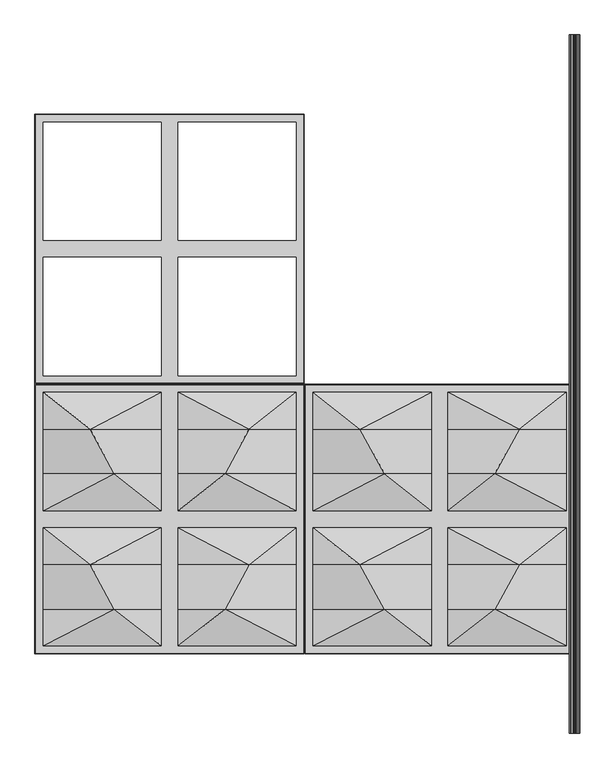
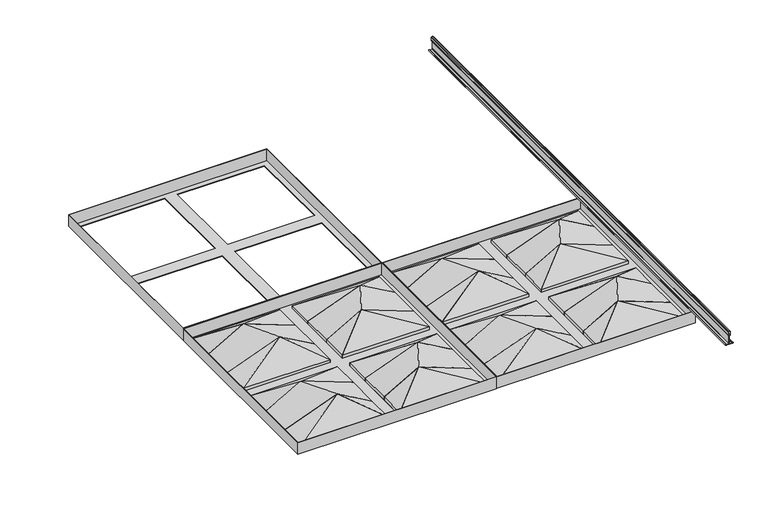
"""IFC4 building model written with IfcOpenShell, lengths in millimetres: proxy geometry, Maxxit_Highland-Ceiling_rev-01 : Maxxit_Highland-Ceiling_Quad."""

from ifc_helpers import new_model, si_unit, point, frame, frame_2d, origin, place, context, project, spatial, polyline, circle_curve, trimmed, segment, composite_curve, outline, extrude, faceted_brep, source, transform, mapped, element, save
from ifc_brep_helpers import plane_surface, spline_surface, advanced_brep


def generic_models_b0d74349(model_context):
    return source(origin(), model_context, "Body", "SolidModel", [
        faceted_brep([(165.89375, 787.4, 25.4), (773.90625, 787.4, 25.4), (773.90625, 1395.4125, 25.4), (165.89375, 1395.4125, 25.4), (772.31875, 788.9875, 25.4), (167.48125, 788.9875, 25.4), (167.48125, 1393.825, 25.4), (772.31875, 1393.825, 25.4), (165.89375, 787.4, -12.7), (165.89375, 1395.4125, -12.7), (773.90625, 1395.4125, -12.7), (773.90625, 787.4, -12.7), (755.6000122, 805.4, -12.7), (755.6000122, 1072.1000122, -12.7), (488.9, 1072.1000122, -12.7), (488.9, 805.4, -12.7), (184.1999878, 805.4, -12.7), (450.9, 805.4, -12.7), (450.9, 1072.1000122, -12.7), (184.1999878, 1072.1000122, -12.7), (755.6000122, 1377.4125, -12.7), (488.9, 1377.4125, -12.7), (488.9, 1110.7124878, -12.7), (755.6000122, 1110.7124878, -12.7), (184.1999878, 1377.4125, -12.7), (184.1999878, 1110.7124878, -12.7), (450.9, 1110.7124878, -12.7), (450.9, 1377.4125, -12.7), (167.48125, 788.9875, -11.1125), (772.31875, 788.9875, -11.1125), (772.31875, 1393.825, -11.1125), (167.48125, 1393.825, -11.1125), (755.6000122, 805.4, -11.1125), (488.9, 805.4, -11.1125), (488.9, 1072.1000122, -11.1125), (755.6000122, 1072.1000122, -11.1125), (184.1999878, 805.4, -11.1125), (184.1999878, 1072.1000122, -11.1125), (450.9, 1072.1000122, -11.1125), (450.9, 805.4, -11.1125), (755.6000122, 1377.4125, -11.1125), (755.6000122, 1110.7124878, -11.1125), (488.9, 1110.7124878, -11.1125), (488.9, 1377.4125, -11.1125), (184.1999878, 1377.4125, -11.1125), (450.9, 1377.4125, -11.1125), (450.9, 1110.7124878, -11.1125), (184.1999878, 1110.7124878, -11.1125)], [[[0, 1, 2, 3], [4, 5, 6, 7]], [[8, 9, 10, 11], [12, 13, 14, 15], [16, 17, 18, 19], [20, 21, 22, 23], [24, 25, 26, 27]], [[1, 0, 8, 11]], [[2, 1, 11, 10]], [[3, 2, 10, 9]], [[0, 3, 9, 8]], [[28, 29, 30, 31], [32, 33, 34, 35], [36, 37, 38, 39], [40, 41, 42, 43], [44, 45, 46, 47]], [[29, 28, 5, 4]], [[30, 29, 4, 7]], [[31, 30, 7, 6]], [[28, 31, 6, 5]], [[12, 15, 33, 32]], [[15, 14, 34, 33]], [[14, 13, 35, 34]], [[13, 12, 32, 35]], [[16, 19, 37, 36]], [[19, 18, 38, 37]], [[18, 17, 39, 38]], [[17, 16, 36, 39]], [[20, 23, 41, 40]], [[23, 22, 42, 41]], [[22, 21, 43, 42]], [[21, 20, 40, 43]], [[24, 27, 45, 44]], [[27, 26, 46, 45]], [[26, 25, 47, 46]], [[25, 24, 44, 47]]]),
        faceted_brep([(1365.2000122, 684.5417938, -1.5875), (1259.1483765, 684.5417938, 58.8875), (1098.5, 684.5417938, -1.5875), (1098.5, 684.5417938, -11.1125), (1259.1483765, 684.5417938, 49.3625), (1365.2000122, 684.5417938, -11.1125), (1365.2000122, 767.8125, -11.1125), (1365.2000122, 767.8125, -1.5875), (1098.5, 767.8125, -11.1125), (1098.5, 767.8125, -1.5875)], [[[0, 1, 2, 3, 4, 5]], [[0, 5, 6, 7]], [[5, 4, 6]], [[4, 3, 8]], [[3, 2, 9, 8]], [[2, 1, 9]], [[1, 0, 7]], [[1, 4, 8, 9]], [[4, 1, 7, 6]]]),
        faceted_brep([(954.4483643, 584.3832092, 58.8875), (1060.5, 584.3832092, -1.5875), (1060.5, 584.3832092, -11.1125), (954.4483643, 584.3832092, 49.3625), (793.7999878, 584.3832092, -11.1125), (793.7999878, 584.3832092, -1.5875), (793.7999878, 501.1124878, -1.5875), (793.7999878, 501.1124878, -11.1125), (1060.5, 501.1124878, -11.1125), (1060.5, 501.1124878, -1.5875)], [[[0, 1, 2, 3, 4, 5]], [[0, 5, 6]], [[5, 4, 7, 6]], [[4, 3, 7]], [[3, 2, 8]], [[2, 1, 9, 8]], [[1, 0, 9]], [[3, 0, 6, 7]], [[0, 3, 8, 9]]]),
        faceted_brep([(1060.5, 767.8125, -1.5875), (793.7999878, 767.8125, -1.5875), (899.8691208, 684.5280552, 58.8790431), (1060.5, 767.8125, -11.1125), (793.7999878, 767.8125, -11.1125), (899.8609554, 684.5212455, 49.3774232)], [[[0, 1, 2]], [[1, 0, 3, 4]], [[4, 3, 5]], [[2, 5, 3, 0]], [[5, 2, 1, 4]]]),
        faceted_brep([(1060.5, 501.0919547, -11.1125), (793.7999878, 501.0919547, -11.1125), (954.3993714, 584.3832092, 49.3774232), (1060.5261505, 501.0919547, -1.5875), (793.7999878, 501.0919547, -1.5875), (954.4231298, 584.4030231, 58.8983724)], [[[0, 1, 2]], [[1, 0, 3, 4]], [[4, 3, 5]], [[5, 2, 1, 4]], [[2, 5, 3, 0]]]),
        faceted_brep([(793.7999878, 684.5417938, -1.5875), (793.7999878, 684.5417938, -11.1125), (899.8516235, 684.5417938, 49.3625), (1060.5, 684.5417938, -11.1125), (1060.5, 684.5417938, -1.5875), (899.8516235, 684.5417938, 58.8875), (793.7999878, 767.8125, -1.5875), (793.7999878, 767.8125, -11.1125), (1060.5, 767.8125, -11.1125), (1060.5, 767.8125, -1.5875)], [[[0, 1, 2, 3, 4, 5]], [[1, 0, 6, 7]], [[2, 1, 7]], [[3, 2, 8]], [[4, 3, 8, 9]], [[5, 4, 9]], [[0, 5, 6]], [[2, 5, 9, 8]], [[5, 2, 7, 6]]]),
        faceted_brep([(1365.2000122, 767.8125, -1.5875), (1098.5, 767.8125, -1.5875), (1259.1390446, 684.5212455, 58.8839871), (1365.2000122, 767.8125, -11.1125), (1098.5, 767.8125, -11.1125), (1259.1308783, 684.5280545, 49.3724781)], [[[0, 1, 2]], [[1, 0, 3, 4]], [[4, 3, 5]], [[5, 2, 1, 4]], [[2, 5, 3, 0]]]),
        faceted_brep([(1365.2000122, 501.0919547, -11.1125), (1098.5, 501.0919547, -11.1125), (1204.5768677, 584.4030211, 49.3918114), (1365.2396132, 501.0919547, -1.5875), (1098.5, 501.0919547, -1.5875), (1204.6006286, 584.3832092, 58.8839871)], [[[0, 1, 2]], [[1, 0, 3, 4]], [[4, 3, 5]], [[2, 5, 3, 0]], [[5, 2, 1, 4]]]),
        faceted_brep([(1204.5516357, 584.3832092, 58.8875), (1365.2000122, 584.3832092, -1.5875), (1365.2000122, 584.3832092, -11.1125), (1204.5516357, 584.3832092, 49.3625), (1098.5, 584.3832092, -11.1125), (1098.5, 584.3832092, -1.5875), (1365.2000122, 501.1124878, -1.5875), (1365.2000122, 501.1124878, -11.1125), (1098.5, 501.1124878, -11.1125), (1098.5, 501.1124878, -1.5875)], [[[0, 1, 2, 3, 4, 5]], [[1, 0, 6]], [[2, 1, 6, 7]], [[3, 2, 7]], [[4, 3, 8]], [[5, 4, 8, 9]], [[0, 5, 9]], [[0, 3, 7, 6]], [[3, 0, 9, 8]]]),
        advanced_brep(
        [(793.7999878, 279.0707214, -1.5875), (793.7999878, 279.0707214, -11.1125), (954.4483643, 279.0707214, 49.3625), (1060.5, 279.0707214, -11.1125), (1060.5, 279.0707214, -1.5875), (954.4483643, 279.0707214, 58.8875), (793.7999878, 379.229306, -1.5875), (899.8516235, 379.229306, 58.8875), (1060.5, 379.229306, -1.5875), (1060.5, 379.229306, -11.1125), (899.8516235, 379.229306, 49.3625), (793.7999878, 379.229306, -11.1125)],
        [
            (0, 1),
            (1, 2),
            (2, 3),
            (3, 4),
            (4, 5),
            (5, 0),
            (6, 7),
            (7, 8),
            (8, 9),
            (9, 10),
            (10, 11),
            (11, 6),
            (11, 1),
            (0, 6),
            (10, 2),
            (9, 3),
            (8, 4),
            (7, 5),
        ],
        [
            plane_surface(frame((936.2494507, 279.0707214, 13.8083333), z_axis=(0.0, -1.0, 0.0), x_axis=(0.9358843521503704, 0.0, 0.35230736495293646))),
            plane_surface(frame((918.0505371, 379.229306, 13.8083333), z_axis=(0.0, 1.0, 0.0), x_axis=(0.9358843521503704, 0.0, 0.35230736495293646))),
            plane_surface(frame((793.7999878, 379.229306, -6.35), z_axis=(-1.0, 0.0, 0.0), x_axis=(0.0, 0.0, -1.0))),
            spline_surface(1, 1, [[(793.7999878, 379.229306, -11.1125), (793.7999878, 279.0707214, -11.1125)], [(899.8516235, 379.229306, 49.3625), (954.4483643, 279.0707214, 49.3625)]], [2, 2], [2, 2], [0.0, 1.0], [0.0, 1.0]),
            spline_surface(1, 1, [[(899.8516235, 379.229306, 49.3625), (954.4483643, 279.0707214, 49.3625)], [(1060.5, 379.229306, -11.1125), (1060.5, 279.0707214, -11.1125)]], [2, 2], [2, 2], [0.0, 1.0], [0.0, 1.0]),
            plane_surface(frame((1060.5, 379.229306, -6.35), z_axis=(1.0, 0.0, 0.0), x_axis=(0.0, 0.0, 1.0))),
            spline_surface(1, 1, [[(1060.5, 379.229306, -1.5875), (1060.5, 279.0707214, -1.5875)], [(899.8516235, 379.229306, 58.8875), (954.4483643, 279.0707214, 58.8875)]], [2, 2], [2, 2], [0.0, 1.0], [0.0, 1.0]),
            spline_surface(1, 1, [[(899.8516235, 379.229306, 58.8875), (954.4483643, 279.0707214, 58.8875)], [(793.7999878, 379.229306, -1.5875), (793.7999878, 279.0707214, -1.5875)]], [2, 2], [2, 2], [0.0, 1.0], [0.0, 1.0]),
        ],
        [
            (0, [[1, 2, 3, 4, 5, 6]]),
            (1, [[7, 8, 9, 10, 11, 12]]),
            (2, [[-12, 13, -1, 14]]),
            (3, [[-11, 15, -2, -13]]),
            (4, [[-10, 16, -3, -15]]),
            (5, [[-9, 17, -4, -16]]),
            (6, [[-8, 18, -5, -17]]),
            (7, [[-7, -14, -6, -18]]),
        ],
    ),
        advanced_brep(
        [(793.7999878, 584.3832092, -1.5875), (793.7999878, 584.3832092, -11.1125), (954.4483643, 584.3832092, 49.3625), (1060.5, 584.3832092, -11.1125), (1060.5, 584.3832092, -1.5875), (954.4483643, 584.3832092, 58.8875), (793.7999878, 684.5417938, -1.5875), (899.8516235, 684.5417938, 58.8875), (1060.5, 684.5417938, -1.5875), (1060.5, 684.5417938, -11.1125), (899.8516235, 684.5417938, 49.3625), (793.7999878, 684.5417938, -11.1125)],
        [
            (0, 1),
            (1, 2),
            (2, 3),
            (3, 4),
            (4, 5),
            (5, 0),
            (6, 7),
            (7, 8),
            (8, 9),
            (9, 10),
            (10, 11),
            (11, 6),
            (11, 1),
            (0, 6),
            (10, 2),
            (9, 3),
            (8, 4),
            (7, 5),
        ],
        [
            plane_surface(frame((936.2494507, 584.3832092, 13.8083333), z_axis=(0.0, -1.0, 0.0), x_axis=(0.9358843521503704, 0.0, 0.35230736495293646))),
            plane_surface(frame((918.0505371, 684.5417938, 13.8083333), z_axis=(0.0, 1.0, 0.0), x_axis=(0.9358843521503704, 0.0, 0.35230736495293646))),
            plane_surface(frame((793.7999878, 684.5417938, -6.35), z_axis=(-1.0, 0.0, 0.0), x_axis=(0.0, 0.0, -1.0))),
            spline_surface(1, 1, [[(793.7999878, 684.5417938, -11.1125), (793.7999878, 584.3832092, -11.1125)], [(899.8516235, 684.5417938, 49.3625), (954.4483643, 584.3832092, 49.3625)]], [2, 2], [2, 2], [0.0, 1.0], [0.0, 1.0]),
            spline_surface(1, 1, [[(899.8516235, 684.5417938, 49.3625), (954.4483643, 584.3832092, 49.3625)], [(1060.5, 684.5417938, -11.1125), (1060.5, 584.3832092, -11.1125)]], [2, 2], [2, 2], [0.0, 1.0], [0.0, 1.0]),
            plane_surface(frame((1060.5, 684.5417938, -6.35), z_axis=(1.0, 0.0, 0.0), x_axis=(0.0, 0.0, 1.0))),
            spline_surface(1, 1, [[(1060.5, 684.5417938, -1.5875), (1060.5, 584.3832092, -1.5875)], [(899.8516235, 684.5417938, 58.8875), (954.4483643, 584.3832092, 58.8875)]], [2, 2], [2, 2], [0.0, 1.0], [0.0, 1.0]),
            spline_surface(1, 1, [[(899.8516235, 684.5417938, 58.8875), (954.4483643, 584.3832092, 58.8875)], [(793.7999878, 684.5417938, -1.5875), (793.7999878, 584.3832092, -1.5875)]], [2, 2], [2, 2], [0.0, 1.0], [0.0, 1.0]),
        ],
        [
            (0, [[1, 2, 3, 4, 5, 6]]),
            (1, [[7, 8, 9, 10, 11, 12]]),
            (2, [[-12, 13, -1, 14]]),
            (3, [[-11, 15, -2, -13]]),
            (4, [[-10, 16, -3, -15]]),
            (5, [[-9, 17, -4, -16]]),
            (6, [[-8, 18, -5, -17]]),
            (7, [[-7, -14, -6, -18]]),
        ],
    ),
        advanced_brep(
        [(1365.2000122, 584.3832092, -1.5875), (1204.5516357, 584.3832092, 58.8875), (1098.5, 584.3832092, -1.5875), (1098.5, 584.3832092, -11.1125), (1204.5516357, 584.3832092, 49.3625), (1365.2000122, 584.3832092, -11.1125), (1365.2000122, 684.5417938, -1.5875), (1365.2000122, 684.5417938, -11.1125), (1259.1483765, 684.5417938, 49.3625), (1098.5, 684.5417938, -11.1125), (1098.5, 684.5417938, -1.5875), (1259.1483765, 684.5417938, 58.8875)],
        [
            (0, 1),
            (1, 2),
            (2, 3),
            (3, 4),
            (4, 5),
            (5, 0),
            (6, 7),
            (7, 8),
            (8, 9),
            (9, 10),
            (10, 11),
            (11, 6),
            (6, 0),
            (5, 7),
            (4, 8),
            (3, 9),
            (2, 10),
            (1, 11),
        ],
        [
            plane_surface(frame((1222.7505493, 584.3832092, 13.8083333), z_axis=(0.0, -1.0, 0.0), x_axis=(0.0, 0.0, -1.0))),
            plane_surface(frame((1240.9494629, 684.5417938, 13.8083333), z_axis=(0.0, 1.0, 0.0), x_axis=(0.0, 0.0, -1.0))),
            plane_surface(frame((1365.2000122, 684.5417938, -6.35), z_axis=(1.0, 0.0, 0.0), x_axis=(0.0, 0.0, 1.0))),
            spline_surface(1, 1, [[(1259.1483765, 684.5417938, 49.3625), (1204.5516357, 584.3832092, 49.3625)], [(1365.2000122, 684.5417938, -11.1125), (1365.2000122, 584.3832092, -11.1125)]], [2, 2], [2, 2], [0.0, 1.0], [0.0, 1.0]),
            spline_surface(1, 1, [[(1098.5, 684.5417938, -11.1125), (1098.5, 584.3832092, -11.1125)], [(1259.1483765, 684.5417938, 49.3625), (1204.5516357, 584.3832092, 49.3625)]], [2, 2], [2, 2], [0.0, 1.0], [0.0, 1.0]),
            plane_surface(frame((1098.5, 684.5417938, -6.35), z_axis=(-1.0, 0.0, 0.0), x_axis=(0.0, 0.0, -1.0))),
            spline_surface(1, 1, [[(1259.1483765, 684.5417938, 58.8875), (1204.5516357, 584.3832092, 58.8875)], [(1098.5, 684.5417938, -1.5875), (1098.5, 584.3832092, -1.5875)]], [2, 2], [2, 2], [0.0, 1.0], [0.0, 1.0]),
            spline_surface(1, 1, [[(1365.2000122, 684.5417938, -1.5875), (1365.2000122, 584.3832092, -1.5875)], [(1259.1483765, 684.5417938, 58.8875), (1204.5516357, 584.3832092, 58.8875)]], [2, 2], [2, 2], [0.0, 1.0], [0.0, 1.0]),
        ],
        [
            (0, [[1, 2, 3, 4, 5, 6]]),
            (1, [[7, 8, 9, 10, 11, 12]]),
            (2, [[-7, 13, -6, 14]]),
            (3, [[-8, -14, -5, 15]]),
            (4, [[-9, -15, -4, 16]]),
            (5, [[-10, -16, -3, 17]]),
            (6, [[-11, -17, -2, 18]]),
            (7, [[-12, -18, -1, -13]]),
        ],
    ),
        faceted_brep([(954.4483643, 279.0707214, 58.8875), (1060.5, 279.0707214, -1.5875), (1060.5, 279.0707214, -11.1125), (954.4483643, 279.0707214, 49.3625), (793.7999878, 279.0707214, -11.1125), (793.7999878, 279.0707214, -1.5875), (793.7999878, 195.8, -1.5875), (793.7999878, 195.8, -11.1125), (1060.5, 195.8, -11.1125), (1060.5, 195.8, -1.5875)], [[[0, 1, 2, 3, 4, 5]], [[0, 5, 6]], [[5, 4, 7, 6]], [[4, 3, 7]], [[3, 2, 8]], [[2, 1, 9, 8]], [[1, 0, 9]], [[3, 0, 6, 7]], [[0, 3, 8, 9]]]),
        faceted_brep([(793.7999878, 379.229306, -1.5875), (793.7999878, 379.229306, -11.1125), (899.8516235, 379.229306, 49.3625), (1060.5, 379.229306, -11.1125), (1060.5, 379.229306, -1.5875), (899.8516235, 379.229306, 58.8875), (793.7999878, 462.5000122, -1.5875), (793.7999878, 462.5000122, -11.1125), (1060.5, 462.5000122, -11.1125), (1060.5, 462.5000122, -1.5875)], [[[0, 1, 2, 3, 4, 5]], [[1, 0, 6, 7]], [[2, 1, 7]], [[3, 2, 8]], [[4, 3, 8, 9]], [[5, 4, 9]], [[0, 5, 6]], [[2, 5, 9, 8]], [[5, 2, 7, 6]]]),
        faceted_brep([(1060.5, 462.5000122, -1.5875), (793.7999878, 462.5000122, -1.5875), (899.8691208, 379.2155674, 58.8790431), (1060.5, 462.5000122, -11.1125), (793.7999878, 462.5000122, -11.1125), (899.8609554, 379.2087577, 49.3774232)], [[[0, 1, 2]], [[1, 0, 3, 4]], [[4, 3, 5]], [[2, 5, 3, 0]], [[5, 2, 1, 4]]]),
        faceted_brep([(1060.5, 195.7794669, -11.1125), (793.7999878, 195.7794669, -11.1125), (954.3993714, 279.0707214, 49.3774232), (1060.5261505, 195.7794669, -1.5875), (793.7999878, 195.7794669, -1.5875), (954.4231298, 279.0905353, 58.8983724)], [[[0, 1, 2]], [[1, 0, 3, 4]], [[4, 3, 5]], [[5, 2, 1, 4]], [[2, 5, 3, 0]]]),
        advanced_brep(
        [(1365.2000122, 279.0707214, -1.5875), (1204.5516357, 279.0707214, 58.8875), (1098.5, 279.0707214, -1.5875), (1098.5, 279.0707214, -11.1125), (1204.5516357, 279.0707214, 49.3625), (1365.2000122, 279.0707214, -11.1125), (1365.2000122, 379.229306, -1.5875), (1365.2000122, 379.229306, -11.1125), (1259.1483765, 379.229306, 49.3625), (1098.5, 379.229306, -11.1125), (1098.5, 379.229306, -1.5875), (1259.1483765, 379.229306, 58.8875)],
        [
            (0, 1),
            (1, 2),
            (2, 3),
            (3, 4),
            (4, 5),
            (5, 0),
            (6, 7),
            (7, 8),
            (8, 9),
            (9, 10),
            (10, 11),
            (11, 6),
            (6, 0),
            (5, 7),
            (4, 8),
            (3, 9),
            (2, 10),
            (1, 11),
        ],
        [
            plane_surface(frame((1222.7505493, 279.0707214, 13.8083333), z_axis=(0.0, -1.0, 0.0), x_axis=(0.0, 0.0, -1.0))),
            plane_surface(frame((1240.9494629, 379.229306, 13.8083333), z_axis=(0.0, 1.0, 0.0), x_axis=(0.0, 0.0, -1.0))),
            plane_surface(frame((1365.2000122, 379.229306, -6.35), z_axis=(1.0, 0.0, 0.0), x_axis=(0.0, 0.0, 1.0))),
            spline_surface(1, 1, [[(1259.1483765, 379.229306, 49.3625), (1204.5516357, 279.0707214, 49.3625)], [(1365.2000122, 379.229306, -11.1125), (1365.2000122, 279.0707214, -11.1125)]], [2, 2], [2, 2], [0.0, 1.0], [0.0, 1.0]),
            spline_surface(1, 1, [[(1098.5, 379.229306, -11.1125), (1098.5, 279.0707214, -11.1125)], [(1259.1483765, 379.229306, 49.3625), (1204.5516357, 279.0707214, 49.3625)]], [2, 2], [2, 2], [0.0, 1.0], [0.0, 1.0]),
            plane_surface(frame((1098.5, 379.229306, -6.35), z_axis=(-1.0, 0.0, 0.0), x_axis=(0.0, 0.0, -1.0))),
            spline_surface(1, 1, [[(1259.1483765, 379.229306, 58.8875), (1204.5516357, 279.0707214, 58.8875)], [(1098.5, 379.229306, -1.5875), (1098.5, 279.0707214, -1.5875)]], [2, 2], [2, 2], [0.0, 1.0], [0.0, 1.0]),
            spline_surface(1, 1, [[(1365.2000122, 379.229306, -1.5875), (1365.2000122, 279.0707214, -1.5875)], [(1259.1483765, 379.229306, 58.8875), (1204.5516357, 279.0707214, 58.8875)]], [2, 2], [2, 2], [0.0, 1.0], [0.0, 1.0]),
        ],
        [
            (0, [[1, 2, 3, 4, 5, 6]]),
            (1, [[7, 8, 9, 10, 11, 12]]),
            (2, [[-7, 13, -6, 14]]),
            (3, [[-8, -14, -5, 15]]),
            (4, [[-9, -15, -4, 16]]),
            (5, [[-10, -16, -3, 17]]),
            (6, [[-11, -17, -2, 18]]),
            (7, [[-12, -18, -1, -13]]),
        ],
    ),
        faceted_brep([(1365.2000122, 462.5000122, -1.5875), (1098.5, 462.5000122, -1.5875), (1259.1390446, 379.2087577, 58.8839871), (1365.2000122, 462.5000122, -11.1125), (1098.5, 462.5000122, -11.1125), (1259.1308783, 379.2155667, 49.3724781)], [[[0, 1, 2]], [[1, 0, 3, 4]], [[4, 3, 5]], [[5, 2, 1, 4]], [[2, 5, 3, 0]]]),
        faceted_brep([(1365.2000122, 195.7794669, -11.1125), (1098.5, 195.7794669, -11.1125), (1204.5768677, 279.0905333, 49.3918114), (1365.2396132, 195.7794669, -1.5875), (1098.5, 195.7794669, -1.5875), (1204.6006286, 279.0707214, 58.8839871)], [[[0, 1, 2]], [[1, 0, 3, 4]], [[4, 3, 5]], [[2, 5, 3, 0]], [[5, 2, 1, 4]]]),
        faceted_brep([(1204.5516357, 279.0707214, 58.8875), (1365.2000122, 279.0707214, -1.5875), (1365.2000122, 279.0707214, -11.1125), (1204.5516357, 279.0707214, 49.3625), (1098.5, 279.0707214, -11.1125), (1098.5, 279.0707214, -1.5875), (1365.2000122, 195.8, -1.5875), (1365.2000122, 195.8, -11.1125), (1098.5, 195.8, -11.1125), (1098.5, 195.8, -1.5875)], [[[0, 1, 2, 3, 4, 5]], [[1, 0, 6]], [[2, 1, 6, 7]], [[3, 2, 7]], [[4, 3, 8]], [[5, 4, 8, 9]], [[0, 5, 9]], [[0, 3, 7, 6]], [[3, 0, 9, 8]]]),
        faceted_brep([(1365.2000122, 379.229306, -1.5875), (1259.1483765, 379.229306, 58.8875), (1098.5, 379.229306, -1.5875), (1098.5, 379.229306, -11.1125), (1259.1483765, 379.229306, 49.3625), (1365.2000122, 379.229306, -11.1125), (1365.2000122, 462.5000122, -11.1125), (1365.2000122, 462.5000122, -1.5875), (1098.5, 462.5000122, -11.1125), (1098.5, 462.5000122, -1.5875)], [[[0, 1, 2, 3, 4, 5]], [[0, 5, 6, 7]], [[5, 4, 6]], [[4, 3, 8]], [[3, 2, 9, 8]], [[2, 1, 9]], [[1, 0, 7]], [[1, 4, 8, 9]], [[4, 1, 7, 6]]]),
        faceted_brep([(775.49375, 177.8, 25.4), (1383.50625, 177.8, 25.4), (1383.50625, 785.8125, 25.4), (775.49375, 785.8125, 25.4), (1381.91875, 179.3875, 25.4), (777.08125, 179.3875, 25.4), (777.08125, 784.225, 25.4), (1381.91875, 784.225, 25.4), (775.49375, 177.8, -12.7), (775.49375, 785.8125, -12.7), (1383.50625, 785.8125, -12.7), (1383.50625, 177.8, -12.7), (1365.2000122, 195.8, -12.7), (1365.2000122, 462.5000122, -12.7), (1098.5, 462.5000122, -12.7), (1098.5, 195.8, -12.7), (793.7999878, 195.8, -12.7), (1060.5, 195.8, -12.7), (1060.5, 462.5000122, -12.7), (793.7999878, 462.5000122, -12.7), (1365.2000122, 767.8125, -12.7), (1098.5, 767.8125, -12.7), (1098.5, 501.1124878, -12.7), (1365.2000122, 501.1124878, -12.7), (793.7999878, 767.8125, -12.7), (793.7999878, 501.1124878, -12.7), (1060.5, 501.1124878, -12.7), (1060.5, 767.8125, -12.7), (777.08125, 179.3875, -11.1125), (1381.91875, 179.3875, -11.1125), (1381.91875, 784.225, -11.1125), (777.08125, 784.225, -11.1125), (1365.2000122, 195.8, -11.1125), (1098.5, 195.8, -11.1125), (1098.5, 462.5000122, -11.1125), (1365.2000122, 462.5000122, -11.1125), (793.7999878, 195.8, -11.1125), (793.7999878, 462.5000122, -11.1125), (1060.5, 462.5000122, -11.1125), (1060.5, 195.8, -11.1125), (1365.2000122, 767.8125, -11.1125), (1365.2000122, 501.1124878, -11.1125), (1098.5, 501.1124878, -11.1125), (1098.5, 767.8125, -11.1125), (793.7999878, 767.8125, -11.1125), (1060.5, 767.8125, -11.1125), (1060.5, 501.1124878, -11.1125), (793.7999878, 501.1124878, -11.1125)], [[[0, 1, 2, 3], [4, 5, 6, 7]], [[8, 9, 10, 11], [12, 13, 14, 15], [16, 17, 18, 19], [20, 21, 22, 23], [24, 25, 26, 27]], [[1, 0, 8, 11]], [[2, 1, 11, 10]], [[3, 2, 10, 9]], [[0, 3, 9, 8]], [[28, 29, 30, 31], [32, 33, 34, 35], [36, 37, 38, 39], [40, 41, 42, 43], [44, 45, 46, 47]], [[29, 28, 5, 4]], [[30, 29, 4, 7]], [[31, 30, 7, 6]], [[28, 31, 6, 5]], [[12, 15, 33, 32]], [[15, 14, 34, 33]], [[14, 13, 35, 34]], [[13, 12, 32, 35]], [[16, 19, 37, 36]], [[19, 18, 38, 37]], [[18, 17, 39, 38]], [[17, 16, 36, 39]], [[20, 23, 41, 40]], [[23, 22, 42, 41]], [[22, 21, 43, 42]], [[21, 20, 40, 43]], [[24, 27, 45, 44]], [[27, 26, 46, 45]], [[26, 25, 47, 46]], [[25, 24, 44, 47]]]),
        faceted_brep([(755.6000122, 684.5417938, -1.5875), (649.5483765, 684.5417938, 58.8875), (488.9, 684.5417938, -1.5875), (488.9, 684.5417938, -11.1125), (649.5483765, 684.5417938, 49.3625), (755.6000122, 684.5417938, -11.1125), (755.6000122, 767.8125, -11.1125), (755.6000122, 767.8125, -1.5875), (488.9, 767.8125, -11.1125), (488.9, 767.8125, -1.5875)], [[[0, 1, 2, 3, 4, 5]], [[0, 5, 6, 7]], [[5, 4, 6]], [[4, 3, 8]], [[3, 2, 9, 8]], [[2, 1, 9]], [[1, 0, 7]], [[1, 4, 8, 9]], [[4, 1, 7, 6]]]),
        faceted_brep([(344.8483643, 584.3832092, 58.8875), (450.9, 584.3832092, -1.5875), (450.9, 584.3832092, -11.1125), (344.8483643, 584.3832092, 49.3625), (184.1999878, 584.3832092, -11.1125), (184.1999878, 584.3832092, -1.5875), (184.1999878, 501.1124878, -1.5875), (184.1999878, 501.1124878, -11.1125), (450.9, 501.1124878, -11.1125), (450.9, 501.1124878, -1.5875)], [[[0, 1, 2, 3, 4, 5]], [[0, 5, 6]], [[5, 4, 7, 6]], [[4, 3, 7]], [[3, 2, 8]], [[2, 1, 9, 8]], [[1, 0, 9]], [[3, 0, 6, 7]], [[0, 3, 8, 9]]]),
        faceted_brep([(450.9, 767.8125, -1.5875), (184.1999878, 767.8125, -1.5875), (290.2691208, 684.5280552, 58.8790431), (450.9, 767.8125, -11.1125), (184.1999878, 767.8125, -11.1125), (290.2609554, 684.5212455, 49.3774232)], [[[0, 1, 2]], [[1, 0, 3, 4]], [[4, 3, 5]], [[2, 5, 3, 0]], [[5, 2, 1, 4]]]),
        faceted_brep([(450.9, 501.0919547, -11.1125), (184.1999878, 501.0919547, -11.1125), (344.7993714, 584.3832092, 49.3774232), (450.9261505, 501.0919547, -1.5875), (184.1999878, 501.0919547, -1.5875), (344.8231298, 584.4030231, 58.8983724)], [[[0, 1, 2]], [[1, 0, 3, 4]], [[4, 3, 5]], [[5, 2, 1, 4]], [[2, 5, 3, 0]]]),
        faceted_brep([(184.1999878, 684.5417938, -1.5875), (184.1999878, 684.5417938, -11.1125), (290.2516235, 684.5417938, 49.3625), (450.9, 684.5417938, -11.1125), (450.9, 684.5417938, -1.5875), (290.2516235, 684.5417938, 58.8875), (184.1999878, 767.8125, -1.5875), (184.1999878, 767.8125, -11.1125), (450.9, 767.8125, -11.1125), (450.9, 767.8125, -1.5875)], [[[0, 1, 2, 3, 4, 5]], [[1, 0, 6, 7]], [[2, 1, 7]], [[3, 2, 8]], [[4, 3, 8, 9]], [[5, 4, 9]], [[0, 5, 6]], [[2, 5, 9, 8]], [[5, 2, 7, 6]]]),
        faceted_brep([(755.6000122, 767.8125, -1.5875), (488.9, 767.8125, -1.5875), (649.5390446, 684.5212455, 58.8839871), (755.6000122, 767.8125, -11.1125), (488.9, 767.8125, -11.1125), (649.5308783, 684.5280545, 49.3724781)], [[[0, 1, 2]], [[1, 0, 3, 4]], [[4, 3, 5]], [[5, 2, 1, 4]], [[2, 5, 3, 0]]]),
        faceted_brep([(755.6000122, 501.0919547, -11.1125), (488.9, 501.0919547, -11.1125), (594.9768677, 584.4030211, 49.3918114), (755.6396132, 501.0919547, -1.5875), (488.9, 501.0919547, -1.5875), (595.0006286, 584.3832092, 58.8839871)], [[[0, 1, 2]], [[1, 0, 3, 4]], [[4, 3, 5]], [[2, 5, 3, 0]], [[5, 2, 1, 4]]]),
        faceted_brep([(594.9516357, 584.3832092, 58.8875), (755.6000122, 584.3832092, -1.5875), (755.6000122, 584.3832092, -11.1125), (594.9516357, 584.3832092, 49.3625), (488.9, 584.3832092, -11.1125), (488.9, 584.3832092, -1.5875), (755.6000122, 501.1124878, -1.5875), (755.6000122, 501.1124878, -11.1125), (488.9, 501.1124878, -11.1125), (488.9, 501.1124878, -1.5875)], [[[0, 1, 2, 3, 4, 5]], [[1, 0, 6]], [[2, 1, 6, 7]], [[3, 2, 7]], [[4, 3, 8]], [[5, 4, 8, 9]], [[0, 5, 9]], [[0, 3, 7, 6]], [[3, 0, 9, 8]]]),
        advanced_brep(
        [(184.1999878, 279.0707214, -1.5875), (184.1999878, 279.0707214, -11.1125), (344.8483643, 279.0707214, 49.3625), (450.9, 279.0707214, -11.1125), (450.9, 279.0707214, -1.5875), (344.8483643, 279.0707214, 58.8875), (184.1999878, 379.229306, -1.5875), (290.2516235, 379.229306, 58.8875), (450.9, 379.229306, -1.5875), (450.9, 379.229306, -11.1125), (290.2516235, 379.229306, 49.3625), (184.1999878, 379.229306, -11.1125)],
        [
            (0, 1),
            (1, 2),
            (2, 3),
            (3, 4),
            (4, 5),
            (5, 0),
            (6, 7),
            (7, 8),
            (8, 9),
            (9, 10),
            (10, 11),
            (11, 6),
            (11, 1),
            (0, 6),
            (10, 2),
            (9, 3),
            (8, 4),
            (7, 5),
        ],
        [
            plane_surface(frame((326.6494507, 279.0707214, 13.8083333), z_axis=(0.0, -1.0, 0.0), x_axis=(0.9358843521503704, 0.0, 0.35230736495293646))),
            plane_surface(frame((308.4505371, 379.229306, 13.8083333), z_axis=(0.0, 1.0, 0.0), x_axis=(0.9358843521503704, 0.0, 0.35230736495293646))),
            plane_surface(frame((184.1999878, 379.229306, -6.35), z_axis=(-1.0, 0.0, 0.0), x_axis=(0.0, 0.0, -1.0))),
            spline_surface(1, 1, [[(184.1999878, 379.229306, -11.1125), (184.1999878, 279.0707214, -11.1125)], [(290.2516235, 379.229306, 49.3625), (344.8483643, 279.0707214, 49.3625)]], [2, 2], [2, 2], [0.0, 1.0], [0.0, 1.0]),
            spline_surface(1, 1, [[(290.2516235, 379.229306, 49.3625), (344.8483643, 279.0707214, 49.3625)], [(450.9, 379.229306, -11.1125), (450.9, 279.0707214, -11.1125)]], [2, 2], [2, 2], [0.0, 1.0], [0.0, 1.0]),
            plane_surface(frame((450.9, 379.229306, -6.35), z_axis=(1.0, 0.0, 0.0), x_axis=(0.0, 0.0, 1.0))),
            spline_surface(1, 1, [[(450.9, 379.229306, -1.5875), (450.9, 279.0707214, -1.5875)], [(290.2516235, 379.229306, 58.8875), (344.8483643, 279.0707214, 58.8875)]], [2, 2], [2, 2], [0.0, 1.0], [0.0, 1.0]),
            spline_surface(1, 1, [[(290.2516235, 379.229306, 58.8875), (344.8483643, 279.0707214, 58.8875)], [(184.1999878, 379.229306, -1.5875), (184.1999878, 279.0707214, -1.5875)]], [2, 2], [2, 2], [0.0, 1.0], [0.0, 1.0]),
        ],
        [
            (0, [[1, 2, 3, 4, 5, 6]]),
            (1, [[7, 8, 9, 10, 11, 12]]),
            (2, [[-12, 13, -1, 14]]),
            (3, [[-11, 15, -2, -13]]),
            (4, [[-10, 16, -3, -15]]),
            (5, [[-9, 17, -4, -16]]),
            (6, [[-8, 18, -5, -17]]),
            (7, [[-7, -14, -6, -18]]),
        ],
    ),
        advanced_brep(
        [(184.1999878, 584.3832092, -1.5875), (184.1999878, 584.3832092, -11.1125), (344.8483643, 584.3832092, 49.3625), (450.9, 584.3832092, -11.1125), (450.9, 584.3832092, -1.5875), (344.8483643, 584.3832092, 58.8875), (184.1999878, 684.5417938, -1.5875), (290.2516235, 684.5417938, 58.8875), (450.9, 684.5417938, -1.5875), (450.9, 684.5417938, -11.1125), (290.2516235, 684.5417938, 49.3625), (184.1999878, 684.5417938, -11.1125)],
        [
            (0, 1),
            (1, 2),
            (2, 3),
            (3, 4),
            (4, 5),
            (5, 0),
            (6, 7),
            (7, 8),
            (8, 9),
            (9, 10),
            (10, 11),
            (11, 6),
            (11, 1),
            (0, 6),
            (10, 2),
            (9, 3),
            (8, 4),
            (7, 5),
        ],
        [
            plane_surface(frame((326.6494507, 584.3832092, 13.8083333), z_axis=(0.0, -1.0, 0.0), x_axis=(0.9358843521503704, 0.0, 0.35230736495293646))),
            plane_surface(frame((308.4505371, 684.5417938, 13.8083333), z_axis=(0.0, 1.0, 0.0), x_axis=(0.9358843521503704, 0.0, 0.35230736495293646))),
            plane_surface(frame((184.1999878, 684.5417938, -6.35), z_axis=(-1.0, 0.0, 0.0), x_axis=(0.0, 0.0, -1.0))),
            spline_surface(1, 1, [[(184.1999878, 684.5417938, -11.1125), (184.1999878, 584.3832092, -11.1125)], [(290.2516235, 684.5417938, 49.3625), (344.8483643, 584.3832092, 49.3625)]], [2, 2], [2, 2], [0.0, 1.0], [0.0, 1.0]),
            spline_surface(1, 1, [[(290.2516235, 684.5417938, 49.3625), (344.8483643, 584.3832092, 49.3625)], [(450.9, 684.5417938, -11.1125), (450.9, 584.3832092, -11.1125)]], [2, 2], [2, 2], [0.0, 1.0], [0.0, 1.0]),
            plane_surface(frame((450.9, 684.5417938, -6.35), z_axis=(1.0, 0.0, 0.0), x_axis=(0.0, 0.0, 1.0))),
            spline_surface(1, 1, [[(450.9, 684.5417938, -1.5875), (450.9, 584.3832092, -1.5875)], [(290.2516235, 684.5417938, 58.8875), (344.8483643, 584.3832092, 58.8875)]], [2, 2], [2, 2], [0.0, 1.0], [0.0, 1.0]),
            spline_surface(1, 1, [[(290.2516235, 684.5417938, 58.8875), (344.8483643, 584.3832092, 58.8875)], [(184.1999878, 684.5417938, -1.5875), (184.1999878, 584.3832092, -1.5875)]], [2, 2], [2, 2], [0.0, 1.0], [0.0, 1.0]),
        ],
        [
            (0, [[1, 2, 3, 4, 5, 6]]),
            (1, [[7, 8, 9, 10, 11, 12]]),
            (2, [[-12, 13, -1, 14]]),
            (3, [[-11, 15, -2, -13]]),
            (4, [[-10, 16, -3, -15]]),
            (5, [[-9, 17, -4, -16]]),
            (6, [[-8, 18, -5, -17]]),
            (7, [[-7, -14, -6, -18]]),
        ],
    ),
        advanced_brep(
        [(755.6000122, 584.3832092, -1.5875), (594.9516357, 584.3832092, 58.8875), (488.9, 584.3832092, -1.5875), (488.9, 584.3832092, -11.1125), (594.9516357, 584.3832092, 49.3625), (755.6000122, 584.3832092, -11.1125), (755.6000122, 684.5417938, -1.5875), (755.6000122, 684.5417938, -11.1125), (649.5483765, 684.5417938, 49.3625), (488.9, 684.5417938, -11.1125), (488.9, 684.5417938, -1.5875), (649.5483765, 684.5417938, 58.8875)],
        [
            (0, 1),
            (1, 2),
            (2, 3),
            (3, 4),
            (4, 5),
            (5, 0),
            (6, 7),
            (7, 8),
            (8, 9),
            (9, 10),
            (10, 11),
            (11, 6),
            (6, 0),
            (5, 7),
            (4, 8),
            (3, 9),
            (2, 10),
            (1, 11),
        ],
        [
            plane_surface(frame((613.1505493, 584.3832092, 13.8083333), z_axis=(0.0, -1.0, 0.0), x_axis=(0.0, 0.0, -1.0))),
            plane_surface(frame((631.3494629, 684.5417938, 13.8083333), z_axis=(0.0, 1.0, 0.0), x_axis=(0.0, 0.0, -1.0))),
            plane_surface(frame((755.6000122, 684.5417938, -6.35), z_axis=(1.0, 0.0, 0.0), x_axis=(0.0, 0.0, 1.0))),
            spline_surface(1, 1, [[(649.5483765, 684.5417938, 49.3625), (594.9516357, 584.3832092, 49.3625)], [(755.6000122, 684.5417938, -11.1125), (755.6000122, 584.3832092, -11.1125)]], [2, 2], [2, 2], [0.0, 1.0], [0.0, 1.0]),
            spline_surface(1, 1, [[(488.9, 684.5417938, -11.1125), (488.9, 584.3832092, -11.1125)], [(649.5483765, 684.5417938, 49.3625), (594.9516357, 584.3832092, 49.3625)]], [2, 2], [2, 2], [0.0, 1.0], [0.0, 1.0]),
            plane_surface(frame((488.9, 684.5417938, -6.35), z_axis=(-1.0, 0.0, 0.0), x_axis=(0.0, 0.0, -1.0))),
            spline_surface(1, 1, [[(649.5483765, 684.5417938, 58.8875), (594.9516357, 584.3832092, 58.8875)], [(488.9, 684.5417938, -1.5875), (488.9, 584.3832092, -1.5875)]], [2, 2], [2, 2], [0.0, 1.0], [0.0, 1.0]),
            spline_surface(1, 1, [[(755.6000122, 684.5417938, -1.5875), (755.6000122, 584.3832092, -1.5875)], [(649.5483765, 684.5417938, 58.8875), (594.9516357, 584.3832092, 58.8875)]], [2, 2], [2, 2], [0.0, 1.0], [0.0, 1.0]),
        ],
        [
            (0, [[1, 2, 3, 4, 5, 6]]),
            (1, [[7, 8, 9, 10, 11, 12]]),
            (2, [[-7, 13, -6, 14]]),
            (3, [[-8, -14, -5, 15]]),
            (4, [[-9, -15, -4, 16]]),
            (5, [[-10, -16, -3, 17]]),
            (6, [[-11, -17, -2, 18]]),
            (7, [[-12, -18, -1, -13]]),
        ],
    ),
        faceted_brep([(344.8483643, 279.0707214, 58.8875), (450.9, 279.0707214, -1.5875), (450.9, 279.0707214, -11.1125), (344.8483643, 279.0707214, 49.3625), (184.1999878, 279.0707214, -11.1125), (184.1999878, 279.0707214, -1.5875), (184.1999878, 195.8, -1.5875), (184.1999878, 195.8, -11.1125), (450.9, 195.8, -11.1125), (450.9, 195.8, -1.5875)], [[[0, 1, 2, 3, 4, 5]], [[0, 5, 6]], [[5, 4, 7, 6]], [[4, 3, 7]], [[3, 2, 8]], [[2, 1, 9, 8]], [[1, 0, 9]], [[3, 0, 6, 7]], [[0, 3, 8, 9]]]),
        faceted_brep([(184.1999878, 379.229306, -1.5875), (184.1999878, 379.229306, -11.1125), (290.2516235, 379.229306, 49.3625), (450.9, 379.229306, -11.1125), (450.9, 379.229306, -1.5875), (290.2516235, 379.229306, 58.8875), (184.1999878, 462.5000122, -1.5875), (184.1999878, 462.5000122, -11.1125), (450.9, 462.5000122, -11.1125), (450.9, 462.5000122, -1.5875)], [[[0, 1, 2, 3, 4, 5]], [[1, 0, 6, 7]], [[2, 1, 7]], [[3, 2, 8]], [[4, 3, 8, 9]], [[5, 4, 9]], [[0, 5, 6]], [[2, 5, 9, 8]], [[5, 2, 7, 6]]]),
        faceted_brep([(450.9, 462.5000122, -1.5875), (184.1999878, 462.5000122, -1.5875), (290.2691208, 379.2155674, 58.8790431), (450.9, 462.5000122, -11.1125), (184.1999878, 462.5000122, -11.1125), (290.2609554, 379.2087577, 49.3774232)], [[[0, 1, 2]], [[1, 0, 3, 4]], [[4, 3, 5]], [[2, 5, 3, 0]], [[5, 2, 1, 4]]]),
        faceted_brep([(450.9, 195.7794669, -11.1125), (184.1999878, 195.7794669, -11.1125), (344.7993714, 279.0707214, 49.3774232), (450.9261505, 195.7794669, -1.5875), (184.1999878, 195.7794669, -1.5875), (344.8231298, 279.0905353, 58.8983724)], [[[0, 1, 2]], [[1, 0, 3, 4]], [[4, 3, 5]], [[5, 2, 1, 4]], [[2, 5, 3, 0]]]),
        advanced_brep(
        [(755.6000122, 279.0707214, -1.5875), (594.9516357, 279.0707214, 58.8875), (488.9, 279.0707214, -1.5875), (488.9, 279.0707214, -11.1125), (594.9516357, 279.0707214, 49.3625), (755.6000122, 279.0707214, -11.1125), (755.6000122, 379.229306, -1.5875), (755.6000122, 379.229306, -11.1125), (649.5483765, 379.229306, 49.3625), (488.9, 379.229306, -11.1125), (488.9, 379.229306, -1.5875), (649.5483765, 379.229306, 58.8875)],
        [
            (0, 1),
            (1, 2),
            (2, 3),
            (3, 4),
            (4, 5),
            (5, 0),
            (6, 7),
            (7, 8),
            (8, 9),
            (9, 10),
            (10, 11),
            (11, 6),
            (6, 0),
            (5, 7),
            (4, 8),
            (3, 9),
            (2, 10),
            (1, 11),
        ],
        [
            plane_surface(frame((613.1505493, 279.0707214, 13.8083333), z_axis=(0.0, -1.0, 0.0), x_axis=(0.0, 0.0, -1.0))),
            plane_surface(frame((631.3494629, 379.229306, 13.8083333), z_axis=(0.0, 1.0, 0.0), x_axis=(0.0, 0.0, -1.0))),
            plane_surface(frame((755.6000122, 379.229306, -6.35), z_axis=(1.0, 0.0, 0.0), x_axis=(0.0, 0.0, 1.0))),
            spline_surface(1, 1, [[(649.5483765, 379.229306, 49.3625), (594.9516357, 279.0707214, 49.3625)], [(755.6000122, 379.229306, -11.1125), (755.6000122, 279.0707214, -11.1125)]], [2, 2], [2, 2], [0.0, 1.0], [0.0, 1.0]),
            spline_surface(1, 1, [[(488.9, 379.229306, -11.1125), (488.9, 279.0707214, -11.1125)], [(649.5483765, 379.229306, 49.3625), (594.9516357, 279.0707214, 49.3625)]], [2, 2], [2, 2], [0.0, 1.0], [0.0, 1.0]),
            plane_surface(frame((488.9, 379.229306, -6.35), z_axis=(-1.0, 0.0, 0.0), x_axis=(0.0, 0.0, -1.0))),
            spline_surface(1, 1, [[(649.5483765, 379.229306, 58.8875), (594.9516357, 279.0707214, 58.8875)], [(488.9, 379.229306, -1.5875), (488.9, 279.0707214, -1.5875)]], [2, 2], [2, 2], [0.0, 1.0], [0.0, 1.0]),
            spline_surface(1, 1, [[(755.6000122, 379.229306, -1.5875), (755.6000122, 279.0707214, -1.5875)], [(649.5483765, 379.229306, 58.8875), (594.9516357, 279.0707214, 58.8875)]], [2, 2], [2, 2], [0.0, 1.0], [0.0, 1.0]),
        ],
        [
            (0, [[1, 2, 3, 4, 5, 6]]),
            (1, [[7, 8, 9, 10, 11, 12]]),
            (2, [[-7, 13, -6, 14]]),
            (3, [[-8, -14, -5, 15]]),
            (4, [[-9, -15, -4, 16]]),
            (5, [[-10, -16, -3, 17]]),
            (6, [[-11, -17, -2, 18]]),
            (7, [[-12, -18, -1, -13]]),
        ],
    ),
        faceted_brep([(755.6000122, 462.5000122, -1.5875), (488.9, 462.5000122, -1.5875), (649.5390446, 379.2087577, 58.8839871), (755.6000122, 462.5000122, -11.1125), (488.9, 462.5000122, -11.1125), (649.5308783, 379.2155667, 49.3724781)], [[[0, 1, 2]], [[1, 0, 3, 4]], [[4, 3, 5]], [[5, 2, 1, 4]], [[2, 5, 3, 0]]]),
        faceted_brep([(755.6000122, 195.7794669, -11.1125), (488.9, 195.7794669, -11.1125), (594.9768677, 279.0905333, 49.3918114), (755.6396132, 195.7794669, -1.5875), (488.9, 195.7794669, -1.5875), (595.0006286, 279.0707214, 58.8839871)], [[[0, 1, 2]], [[1, 0, 3, 4]], [[4, 3, 5]], [[2, 5, 3, 0]], [[5, 2, 1, 4]]]),
        faceted_brep([(594.9516357, 279.0707214, 58.8875), (755.6000122, 279.0707214, -1.5875), (755.6000122, 279.0707214, -11.1125), (594.9516357, 279.0707214, 49.3625), (488.9, 279.0707214, -11.1125), (488.9, 279.0707214, -1.5875), (755.6000122, 195.8, -1.5875), (755.6000122, 195.8, -11.1125), (488.9, 195.8, -11.1125), (488.9, 195.8, -1.5875)], [[[0, 1, 2, 3, 4, 5]], [[1, 0, 6]], [[2, 1, 6, 7]], [[3, 2, 7]], [[4, 3, 8]], [[5, 4, 8, 9]], [[0, 5, 9]], [[0, 3, 7, 6]], [[3, 0, 9, 8]]]),
        faceted_brep([(755.6000122, 379.229306, -1.5875), (649.5483765, 379.229306, 58.8875), (488.9, 379.229306, -1.5875), (488.9, 379.229306, -11.1125), (649.5483765, 379.229306, 49.3625), (755.6000122, 379.229306, -11.1125), (755.6000122, 462.5000122, -11.1125), (755.6000122, 462.5000122, -1.5875), (488.9, 462.5000122, -11.1125), (488.9, 462.5000122, -1.5875)], [[[0, 1, 2, 3, 4, 5]], [[0, 5, 6, 7]], [[5, 4, 6]], [[4, 3, 8]], [[3, 2, 9, 8]], [[2, 1, 9]], [[1, 0, 7]], [[1, 4, 8, 9]], [[4, 1, 7, 6]]]),
        faceted_brep([(165.89375, 177.8, 25.4), (773.90625, 177.8, 25.4), (773.90625, 785.8125, 25.4), (165.89375, 785.8125, 25.4), (772.31875, 179.3875, 25.4), (167.48125, 179.3875, 25.4), (167.48125, 784.225, 25.4), (772.31875, 784.225, 25.4), (165.89375, 177.8, -12.7), (165.89375, 785.8125, -12.7), (773.90625, 785.8125, -12.7), (773.90625, 177.8, -12.7), (755.6000122, 195.8, -12.7), (755.6000122, 462.5000122, -12.7), (488.9, 462.5000122, -12.7), (488.9, 195.8, -12.7), (184.1999878, 195.8, -12.7), (450.9, 195.8, -12.7), (450.9, 462.5000122, -12.7), (184.1999878, 462.5000122, -12.7), (755.6000122, 767.8125, -12.7), (488.9, 767.8125, -12.7), (488.9, 501.1124878, -12.7), (755.6000122, 501.1124878, -12.7), (184.1999878, 767.8125, -12.7), (184.1999878, 501.1124878, -12.7), (450.9, 501.1124878, -12.7), (450.9, 767.8125, -12.7), (167.48125, 179.3875, -11.1125), (772.31875, 179.3875, -11.1125), (772.31875, 784.225, -11.1125), (167.48125, 784.225, -11.1125), (755.6000122, 195.8, -11.1125), (488.9, 195.8, -11.1125), (488.9, 462.5000122, -11.1125), (755.6000122, 462.5000122, -11.1125), (184.1999878, 195.8, -11.1125), (184.1999878, 462.5000122, -11.1125), (450.9, 462.5000122, -11.1125), (450.9, 195.8, -11.1125), (755.6000122, 767.8125, -11.1125), (755.6000122, 501.1124878, -11.1125), (488.9, 501.1124878, -11.1125), (488.9, 767.8125, -11.1125), (184.1999878, 767.8125, -11.1125), (450.9, 767.8125, -11.1125), (450.9, 501.1124878, -11.1125), (184.1999878, 501.1124878, -11.1125)], [[[0, 1, 2, 3], [4, 5, 6, 7]], [[8, 9, 10, 11], [12, 13, 14, 15], [16, 17, 18, 19], [20, 21, 22, 23], [24, 25, 26, 27]], [[1, 0, 8, 11]], [[2, 1, 11, 10]], [[3, 2, 10, 9]], [[0, 3, 9, 8]], [[28, 29, 30, 31], [32, 33, 34, 35], [36, 37, 38, 39], [40, 41, 42, 43], [44, 45, 46, 47]], [[29, 28, 5, 4]], [[30, 29, 4, 7]], [[31, 30, 7, 6]], [[28, 31, 6, 5]], [[12, 15, 33, 32]], [[15, 14, 34, 33]], [[14, 13, 35, 34]], [[13, 12, 32, 35]], [[16, 19, 37, 36]], [[19, 18, 38, 37]], [[18, 17, 39, 38]], [[17, 16, 36, 39]], [[20, 23, 41, 40]], [[23, 22, 42, 41]], [[22, 21, 43, 42]], [[21, 20, 40, 43]], [[24, 27, 45, 44]], [[27, 26, 46, 45]], [[26, 25, 47, 46]], [[25, 24, 44, 47]]]),
        extrude(outline(composite_curve([segment(polyline([(26.3453115, 1385.4459122), (26.0364605, 1393.8159382), (27.0486923, 1393.8159382), (27.0486923, 1386.0525313)]), True, "CONTINUOUS"), segment(trimmed(circle_curve(frame_2d((28.0053766, 1386.0525313)), 0.9566843), [point((27.0486923, 1386.0525313))], [point((28.0053766, 1385.095847))], True, "CARTESIAN"), True, "CONTINUOUS"), segment(polyline([(28.0053766, 1385.095847), (53.7729211, 1385.095847)]), True, "CONTINUOUS"), segment(trimmed(circle_curve(frame_2d((53.6130577, 1385.8226944)), 0.74422), [point((53.7729211, 1385.095847))], [point((54.356, 1385.7791036))], True, "CARTESIAN"), True, "CONTINUOUS"), segment(trimmed(circle_curve(frame_2d((58.371716, 1386.0382203)), 4.0240672), [point((54.356, 1385.7791036))], [point((54.4068054, 1386.7256795))], False, "CARTESIAN"), True, "CONTINUOUS"), segment(trimmed(circle_curve(frame_2d((55.7865501, 1386.367924)), 1.4253717), [point((54.4068054, 1386.7256795))], [point((55.7865501, 1387.7932957))], False, "CARTESIAN"), True, "CONTINUOUS"), segment(polyline([(55.7865501, 1387.7932957), (64.7585942, 1387.7932957)]), True, "CONTINUOUS"), segment(trimmed(circle_curve(frame_2d((64.8150812, 1385.7432108)), 2.0508629), [point((64.7585942, 1387.7932957))], [point((66.2652603, 1387.1933899))], False, "CARTESIAN"), True, "CONTINUOUS"), segment(polyline([(66.2652603, 1387.1933899), (68.1708325, 1385.2878177)]), True, "CONTINUOUS"), segment(trimmed(circle_curve(frame_2d((67.1830148, 1384.3)), 1.3969852), [point((68.1708325, 1385.2878177))], [point((68.1708325, 1383.3121823))], False, "CARTESIAN"), True, "CONTINUOUS"), segment(polyline([(68.1708325, 1383.3121823), (66.2652603, 1381.4066101)]), True, "CONTINUOUS"), segment(trimmed(circle_curve(frame_2d((64.8150812, 1382.8567892)), 2.0508629), [point((66.2652603, 1381.4066101))], [point((64.7585942, 1380.8067043))], False, "CARTESIAN"), True, "CONTINUOUS"), segment(polyline([(64.7585942, 1380.8067043), (55.7865501, 1380.8067043)]), True, "CONTINUOUS"), segment(trimmed(circle_curve(frame_2d((55.7865501, 1382.232076)), 1.4253717), [point((55.7865501, 1380.8067043))], [point((54.4068054, 1381.8743205))], False, "CARTESIAN"), True, "CONTINUOUS"), segment(trimmed(circle_curve(frame_2d((58.371716, 1382.5617797)), 4.0240672), [point((54.4068054, 1381.8743205))], [point((54.356, 1382.8208964))], False, "CARTESIAN"), True, "CONTINUOUS"), segment(trimmed(circle_curve(frame_2d((53.6130577, 1382.7773056)), 0.74422), [point((54.356, 1382.8208964))], [point((53.7436541, 1383.5099774))], True, "CARTESIAN"), True, "CONTINUOUS"), segment(polyline([(53.7436541, 1383.5099774), (28.0053766, 1383.5099774)]), True, "CONTINUOUS"), segment(trimmed(circle_curve(frame_2d((28.0053766, 1382.5532931)), 0.9566843), [point((28.0053766, 1383.5099774))], [point((27.0486923, 1382.5532931))], True, "CARTESIAN"), True, "CONTINUOUS"), segment(polyline([(27.0486923, 1382.5532931), (27.0486923, 1373.9569771), (26.0290179, 1373.9569771), (26.3453115, 1383.1599122)]), True, "CONTINUOUS"), segment(trimmed(circle_curve(frame_2d((27.4883115, 1383.1599122)), 1.143), [point((26.3453115, 1383.1599122))], [point((27.4883115, 1384.3029122))], False, "CARTESIAN"), True, "CONTINUOUS"), segment(trimmed(circle_curve(frame_2d((27.4883115, 1385.4459122)), 1.143), [point((27.4883115, 1384.3029122))], [point((26.3453115, 1385.4459122))], False, "CARTESIAN"), True, "CONTINUOUS")], self_intersect=False), holes=[composite_curve([segment(trimmed(circle_curve(frame_2d((54.058724, 1383.2303923)), 1.0922), [point((54.2797221, 1384.3))], [point((55.150924, 1383.2303923))], False, "CARTESIAN"), True, "CONTINUOUS"), segment(polyline([(55.150924, 1383.2303923), (55.150924, 1382.2399715)]), True, "CONTINUOUS"), segment(trimmed(circle_curve(frame_2d((55.7859245, 1382.2399715)), 0.6350005), [point((55.150924, 1382.2399715))], [point((55.7859245, 1381.604971))], True, "CARTESIAN"), True, "CONTINUOUS"), segment(polyline([(55.7859245, 1381.604971), (64.7585942, 1381.604971)]), True, "CONTINUOUS"), segment(trimmed(circle_curve(frame_2d((64.7240599, 1383.1078141)), 1.5032399), [point((64.7585942, 1381.604971))], [point((65.7039943, 1381.9678761))], True, "CARTESIAN"), True, "CONTINUOUS"), segment(polyline([(65.7039943, 1381.9678761), (67.6095665, 1383.8734483)]), True, "CONTINUOUS"), segment(trimmed(circle_curve(frame_2d((67.1830148, 1384.3)), 0.6032352), [point((67.6095665, 1383.8734483))], [point((67.6095665, 1384.7265517))], True, "CARTESIAN"), True, "CONTINUOUS"), segment(polyline([(67.6095665, 1384.7265517), (65.7039943, 1386.6321239)]), True, "CONTINUOUS"), segment(trimmed(circle_curve(frame_2d((64.7240599, 1385.4921859)), 1.5032399), [point((65.7039943, 1386.6321239))], [point((64.7585942, 1386.995029))], True, "CARTESIAN"), True, "CONTINUOUS"), segment(polyline([(64.7585942, 1386.995029), (55.7859245, 1386.995029)]), True, "CONTINUOUS"), segment(trimmed(circle_curve(frame_2d((55.7859245, 1386.3600285)), 0.6350005), [point((55.7859245, 1386.995029))], [point((55.150924, 1386.3600285))], True, "CARTESIAN"), True, "CONTINUOUS"), segment(polyline([(55.150924, 1386.3600285), (55.150924, 1385.3696077)]), True, "CONTINUOUS"), segment(trimmed(circle_curve(frame_2d((54.058724, 1385.3696077)), 1.0922), [point((55.150924, 1385.3696077))], [point((54.2797221, 1384.3))], False, "CARTESIAN"), True, "CONTINUOUS")], self_intersect=False)]), frame((0.0, -0.79375, 0.0), z_axis=(0.0, 1.0, 0.0), x_axis=(0.0, 0.0, 1.0)), (0.0, 0.0, 1.0), 1574.8),
        extrude(outline(composite_curve([segment(trimmed(circle_curve(frame_2d((26.8823557, 1394.7357385)), 1.4823557), [point((25.4, 1394.7357385))], [point((28.3175237, 1394.3646975))], False, "CARTESIAN"), True, "CONTINUOUS"), segment(polyline([(28.3175237, 1394.3646975), (27.887022, 1392.8385205), (27.123083, 1393.0540113), (27.550773, 1394.5702203)]), True, "CONTINUOUS"), segment(trimmed(circle_curve(frame_2d((26.8823557, 1394.7357385)), 0.6886057), [point((27.550773, 1394.5702203))], [point((26.19375, 1394.7357385))], True, "CARTESIAN"), True, "CONTINUOUS"), segment(polyline([(26.19375, 1394.7357385), (26.19375, 1373.8642615)]), True, "CONTINUOUS"), segment(trimmed(circle_curve(frame_2d((26.8823557, 1373.8642615)), 0.6886057), [point((26.19375, 1373.8642615))], [point((27.550773, 1374.0297797))], True, "CARTESIAN"), True, "CONTINUOUS"), segment(polyline([(27.550773, 1374.0297797), (27.123083, 1375.5459887), (27.887022, 1375.7614795), (28.3175237, 1374.2353025)]), True, "CONTINUOUS"), segment(trimmed(circle_curve(frame_2d((26.8823557, 1373.8642615)), 1.4823557), [point((28.3175237, 1374.2353025))], [point((25.4, 1373.8642615))], False, "CARTESIAN"), True, "CONTINUOUS"), segment(polyline([(25.4, 1373.8642615), (25.4, 1394.7357385)]), True, "CONTINUOUS")], self_intersect=False)), frame((0.0, -0.79375, 0.0), z_axis=(0.0, 1.0, 0.0), x_axis=(0.0, 0.0, 1.0)), (0.0, 0.0, 1.0), 1574.8),
    ])


if __name__ == "__main__":
    model = new_model("IFC4")
    model_context = context("Model", 3, world=origin())
    ifc_project = project(units=[si_unit("LENGTHUNIT", "METRE", prefix="MILLI")], contexts=[model_context])
    site = spatial("IfcSite", under=ifc_project)
    building = spatial("IfcBuilding", under=site)
    placement = place(None, origin())
    generic_models_shape = generic_models_b0d74349(model_context)
    element("IfcBuildingElementProxy", 1, Name="Maxxit_Highland-Ceiling_rev-01 : Maxxit_Highland-Ceiling_Quad", ObjectType="Maxxit_Highland-Ceiling_rev-01 : Maxxit_Highland-Ceiling_Quad", at=placement, inside=building, context=model_context, shape_type="MappedRepresentation", body=[
        mapped(generic_models_shape, transform((0.0, 0.0, 0.0), x_axis=(1.0, 0.0, 0.0), y_axis=(0.0, 1.0, 0.0), z_axis=(0.0, 0.0, 1.0))),
    ])
    save(model, "model.ifc")
